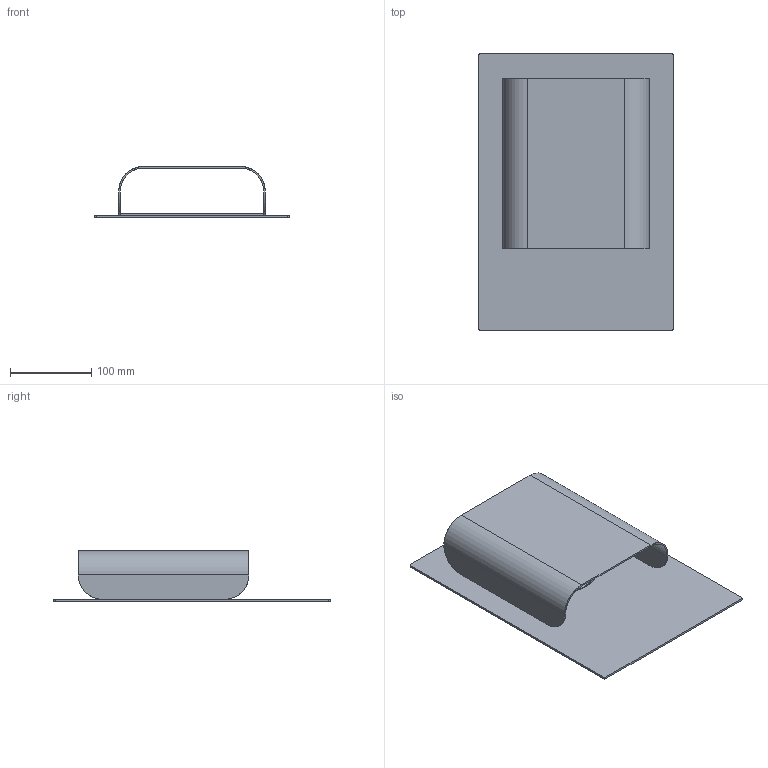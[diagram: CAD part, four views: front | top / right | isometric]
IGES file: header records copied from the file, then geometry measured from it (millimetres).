
Start section: SolidWorks IGES file using analytic representation for surfaces
Global section: file name: C:\Users\Joandita\Dropbox\Rakumba Industrial Design\PRODUCT\2 DEVELOPMENT\ELWOOD\CAD\Final Assembly\Elwood Portrait Outdoor - Lightweight.IGS; native system: SolidWorks 2017; preprocessor: SolidWorks 2017; author: Joandita; date: 230904.140823; units: millimetre
Bounding box: 240 x 340 x 62.5 mm (x, y, z)
Surface area: 288996.2 mm2 (no closed solid volume)
Topology: 0 solids, 0 shells, 44 faces, 768 edges, 768 vertices
Faces by surface type: bspline 24, revolution 20
